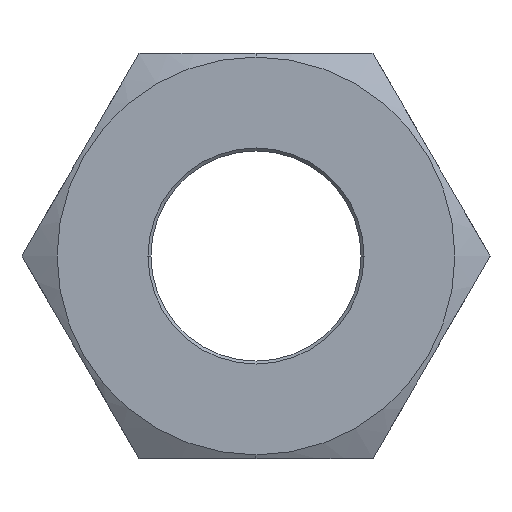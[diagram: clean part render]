
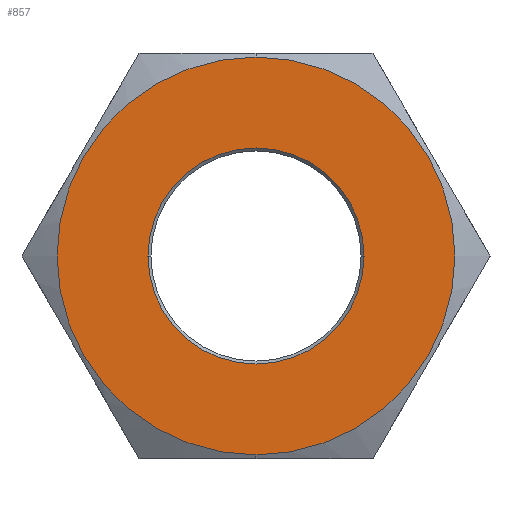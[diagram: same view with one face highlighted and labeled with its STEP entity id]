
A CAD part, left-side view. The second image highlights one B-rep face of the part: STEP entity #857.
In plain terms, the highlighted planar face has unit normal (-1, 0, 0) as drawn and (0, 0, 1) by its records, which use the part's own axes.
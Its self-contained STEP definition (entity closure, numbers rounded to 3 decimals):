
#141=CARTESIAN_POINT('',(13.25,0.0,10.5));
#142=VERTEX_POINT('',#141);
#151=CARTESIAN_POINT('',(-13.25,0.,10.5));
#152=VERTEX_POINT('',#151);
#153=CARTESIAN_POINT('',(0.,0.0,10.5));
#154=DIRECTION('',(0.0,0.0,1.0));
#155=DIRECTION('',(1.0,0.0,0.0));
#156=AXIS2_PLACEMENT_3D('',#153,#154,#155);
#157=CIRCLE('',#156,13.25);
#158=EDGE_CURVE('',#152,#142,#157,.T.);
#471=CARTESIAN_POINT('',(0.,7.2,10.5));
#472=VERTEX_POINT('',#471);
#480=CARTESIAN_POINT('',(0.,-7.2,10.5));
#481=VERTEX_POINT('',#480);
#488=CARTESIAN_POINT('',(0.,0.,10.5));
#489=DIRECTION('',(0.0,0.0,-1.0));
#490=DIRECTION('',(0.0,1.0,0.0));
#491=AXIS2_PLACEMENT_3D('',#488,#489,#490);
#492=CIRCLE('',#491,7.2);
#493=EDGE_CURVE('',#472,#481,#492,.T.);
#504=CARTESIAN_POINT('',(0.,0.,10.5));
#505=DIRECTION('',(0.0,0.0,-1.0));
#506=DIRECTION('',(0.0,1.0,0.0));
#507=AXIS2_PLACEMENT_3D('',#504,#505,#506);
#508=CIRCLE('',#507,7.2);
#509=EDGE_CURVE('',#481,#472,#508,.T.);
#728=CARTESIAN_POINT('',(0.,0.0,10.5));
#729=DIRECTION('',(0.0,0.0,1.0));
#730=DIRECTION('',(1.0,0.0,0.0));
#731=AXIS2_PLACEMENT_3D('',#728,#729,#730);
#732=CIRCLE('',#731,13.25);
#733=EDGE_CURVE('',#142,#152,#732,.T.);
#844=CARTESIAN_POINT('',(0.0,0.,10.5));
#845=DIRECTION('',(0.0,0.0,1.0));
#846=DIRECTION('',(1.0,0.0,0.0));
#847=AXIS2_PLACEMENT_3D('',#844,#845,#846);
#848=PLANE('',#847);
#849=ORIENTED_EDGE('',*,*,#733,.T.);
#850=ORIENTED_EDGE('',*,*,#158,.T.);
#851=EDGE_LOOP('',(#849,#850));
#852=FACE_OUTER_BOUND('',#851,.T.);
#853=ORIENTED_EDGE('',*,*,#493,.T.);
#854=ORIENTED_EDGE('',*,*,#509,.T.);
#855=EDGE_LOOP('',(#853,#854));
#856=FACE_BOUND('',#855,.T.);
#857=ADVANCED_FACE('',(#852,#856),#848,.T.);
